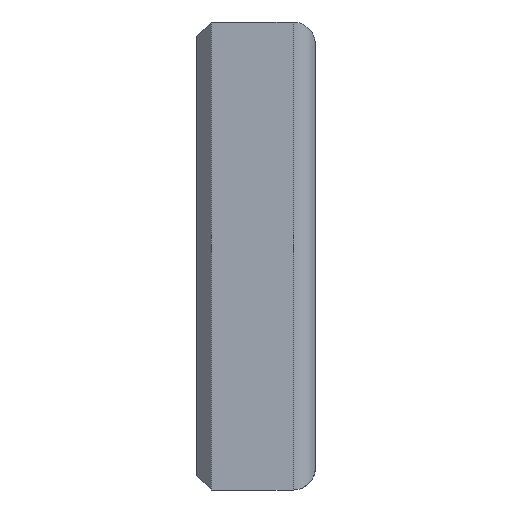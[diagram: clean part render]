
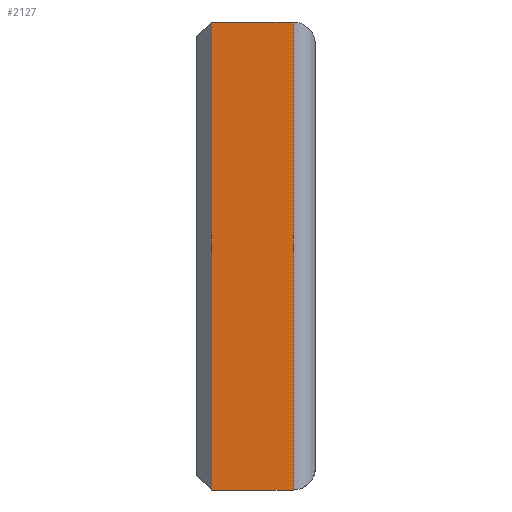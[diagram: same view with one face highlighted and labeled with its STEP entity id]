
A CAD part, front view. The second image highlights one B-rep face of the part: STEP entity #2127.
In plain terms, the highlighted planar face has unit normal (0, -1, 0).
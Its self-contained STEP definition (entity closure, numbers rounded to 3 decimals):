
#2 = CARTESIAN_POINT ( 'NONE',  ( 2., 0., 63. ) ) ;
#308 = CARTESIAN_POINT ( 'NONE',  ( 9.333, 0., 63. ) ) ;
#715 = DIRECTION ( 'NONE',  ( 0., 0., -1. ) ) ;
#858 = ORIENTED_EDGE ( 'NONE', *, *, #2573, .F. ) ;
#882 = CARTESIAN_POINT ( 'NONE',  ( 2., 0., 21. ) ) ;
#1057 = ORIENTED_EDGE ( 'NONE', *, *, #2877, .F. ) ;
#1381 = FACE_OUTER_BOUND ( 'NONE', #5001, .T. ) ;
#1412 = B_SPLINE_CURVE_WITH_KNOTS ( 'NONE', 3,
 ( #6435, #1886, #7761, #3864 ),
 .UNSPECIFIED., .F., .F.,
 ( 4, 4 ),
 ( 0., 1. ),
 .UNSPECIFIED. ) ;
#1444 = CARTESIAN_POINT ( 'NONE',  ( 13., 0., 0. ) ) ;
#1585 = VERTEX_POINT ( 'NONE', #2 ) ;
#1602 = CARTESIAN_POINT ( 'NONE',  ( 13., 0., 63. ) ) ;
#1609 = B_SPLINE_CURVE_WITH_KNOTS ( 'NONE', 3,
 ( #1602, #308, #2258, #6810 ),
 .UNSPECIFIED., .F., .F.,
 ( 4, 4 ),
 ( 0., 1. ),
 .UNSPECIFIED. ) ;
#1623 = VERTEX_POINT ( 'NONE', #4745 ) ;
#1886 = CARTESIAN_POINT ( 'NONE',  ( 13., 0., 42. ) ) ;
#1925 = EDGE_CURVE ( 'NONE', #6266, #1585, #1609, .T. ) ;
#2127 = ADVANCED_FACE ( 'NONE', ( #1381 ), #5776, .T. ) ;
#2258 = CARTESIAN_POINT ( 'NONE',  ( 5.667, 0., 63. ) ) ;
#2573 = EDGE_CURVE ( 'NONE', #1623, #8420, #4662, .T. ) ;
#2763 = CARTESIAN_POINT ( 'NONE',  ( 2., 0., 0. ) ) ;
#2877 = EDGE_CURVE ( 'NONE', #8420, #1585, #5384, .T. ) ;
#2881 = CARTESIAN_POINT ( 'NONE',  ( 2., 0., 0. ) ) ;
#3095 = CARTESIAN_POINT ( 'NONE',  ( 13., 0., 63. ) ) ;
#3377 = EDGE_CURVE ( 'NONE', #6266, #1623, #1412, .T. ) ;
#3864 = CARTESIAN_POINT ( 'NONE',  ( 13., 0., 0. ) ) ;
#4204 = CARTESIAN_POINT ( 'NONE',  ( 2., 0., 63. ) ) ;
#4613 = DIRECTION ( 'NONE',  ( 0., -1., 0. ) ) ;
#4662 = B_SPLINE_CURVE_WITH_KNOTS ( 'NONE', 3,
 ( #1444, #6017, #6655, #2763 ),
 .UNSPECIFIED., .F., .F.,
 ( 4, 4 ),
 ( 0., 1. ),
 .UNSPECIFIED. ) ;
#4745 = CARTESIAN_POINT ( 'NONE',  ( 13., 0., 0. ) ) ;
#5001 = EDGE_LOOP ( 'NONE', ( #5345, #1057, #858, #7155 ) ) ;
#5345 = ORIENTED_EDGE ( 'NONE', *, *, #1925, .T. ) ;
#5384 = B_SPLINE_CURVE_WITH_KNOTS ( 'NONE', 3,
 ( #2881, #882, #8090, #4204 ),
 .UNSPECIFIED., .F., .F.,
 ( 4, 4 ),
 ( 0., 1. ),
 .UNSPECIFIED. ) ;
#5776 = PLANE ( 'NONE',  #6982 ) ;
#6017 = CARTESIAN_POINT ( 'NONE',  ( 9.333, 0., 0. ) ) ;
#6097 = CARTESIAN_POINT ( 'NONE',  ( 2., 0., 0. ) ) ;
#6266 = VERTEX_POINT ( 'NONE', #3095 ) ;
#6435 = CARTESIAN_POINT ( 'NONE',  ( 13., 0., 63. ) ) ;
#6655 = CARTESIAN_POINT ( 'NONE',  ( 5.667, 0., 0. ) ) ;
#6810 = CARTESIAN_POINT ( 'NONE',  ( 2., 0., 63. ) ) ;
#6982 = AXIS2_PLACEMENT_3D ( 'NONE', #8384, #4613, #715 ) ;
#7155 = ORIENTED_EDGE ( 'NONE', *, *, #3377, .F. ) ;
#7761 = CARTESIAN_POINT ( 'NONE',  ( 13., 0., 21. ) ) ;
#8090 = CARTESIAN_POINT ( 'NONE',  ( 2., 0., 42. ) ) ;
#8384 = CARTESIAN_POINT ( 'NONE',  ( 0., 0., 63. ) ) ;
#8420 = VERTEX_POINT ( 'NONE', #6097 ) ;
